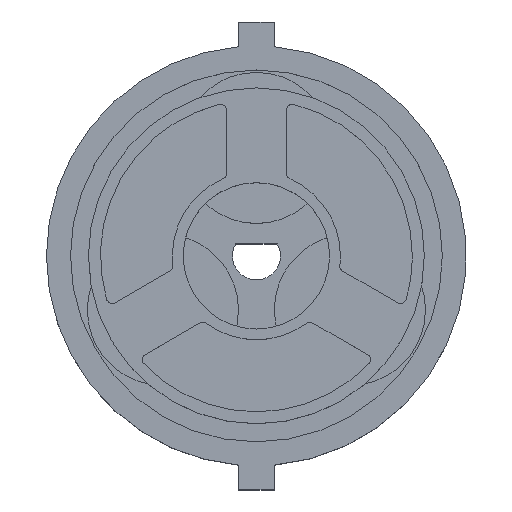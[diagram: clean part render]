
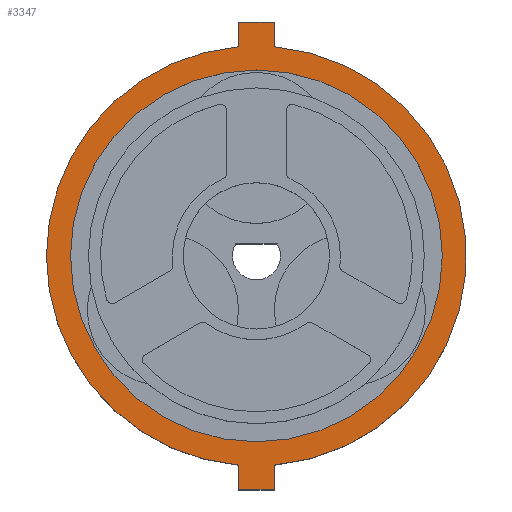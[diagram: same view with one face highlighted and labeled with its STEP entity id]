
A CAD part, top view. The second image highlights one B-rep face of the part: STEP entity #3347.
In plain terms, the highlighted planar face has unit normal (0, 0, 1).
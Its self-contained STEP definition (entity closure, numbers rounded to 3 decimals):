
#214 = DIRECTION ( 'NONE',  ( 0., 0., 1. ) ) ;
#269 = DIRECTION ( 'NONE',  ( 0., 1., 0. ) ) ;
#297 = CARTESIAN_POINT ( 'NONE',  ( 1.5, 19.5, 4.5 ) ) ;
#342 = ORIENTED_EDGE ( 'NONE', *, *, #2219, .T. ) ;
#385 = EDGE_CURVE ( 'NONE', #1893, #1621, #8082, .T. ) ;
#470 = CARTESIAN_POINT ( 'NONE',  ( -15.5, 0., 4.5 ) ) ;
#490 = VERTEX_POINT ( 'NONE', #6605 ) ;
#496 = DIRECTION ( 'NONE',  ( 1., 0., 0. ) ) ;
#533 = CIRCLE ( 'NONE', #3526, 17.5 ) ;
#565 = VECTOR ( 'NONE', #2170, 1000. ) ;
#756 = CARTESIAN_POINT ( 'NONE',  ( 0., 0., 4.5 ) ) ;
#858 = DIRECTION ( 'NONE',  ( 0., 0., 1. ) ) ;
#1018 = DIRECTION ( 'NONE',  ( 1., 0., 0. ) ) ;
#1542 = EDGE_CURVE ( 'NONE', #2685, #4026, #6996, .T. ) ;
#1621 = VERTEX_POINT ( 'NONE', #7222 ) ;
#1637 = ORIENTED_EDGE ( 'NONE', *, *, #5302, .F. ) ;
#1893 = VERTEX_POINT ( 'NONE', #4182 ) ;
#1919 = ORIENTED_EDGE ( 'NONE', *, *, #8768, .F. ) ;
#1954 = LINE ( 'NONE', #3837, #5416 ) ;
#2129 = CARTESIAN_POINT ( 'NONE',  ( -1.5, -19.5, 4.5 ) ) ;
#2132 = VERTEX_POINT ( 'NONE', #470 ) ;
#2149 = CARTESIAN_POINT ( 'NONE',  ( -1.5, 17.436, 4.5 ) ) ;
#2170 = DIRECTION ( 'NONE',  ( 0., -1., 0. ) ) ;
#2219 = EDGE_CURVE ( 'NONE', #1621, #4476, #3905, .T. ) ;
#2284 = VERTEX_POINT ( 'NONE', #5669 ) ;
#2331 = EDGE_CURVE ( 'NONE', #7304, #3283, #4337, .T. ) ;
#2343 = CARTESIAN_POINT ( 'NONE',  ( 0., 0., 4.5 ) ) ;
#2386 = PLANE ( 'NONE',  #3673 ) ;
#2602 = ORIENTED_EDGE ( 'NONE', *, *, #2331, .T. ) ;
#2685 = VERTEX_POINT ( 'NONE', #7410 ) ;
#2723 = ORIENTED_EDGE ( 'NONE', *, *, #7763, .T. ) ;
#2731 = CIRCLE ( 'NONE', #3303, 17.5 ) ;
#2780 = VECTOR ( 'NONE', #269, 1000. ) ;
#2833 = AXIS2_PLACEMENT_3D ( 'NONE', #4923, #858, #4340 ) ;
#3283 = VERTEX_POINT ( 'NONE', #297 ) ;
#3301 = CIRCLE ( 'NONE', #3445, 15.5 ) ;
#3303 = AXIS2_PLACEMENT_3D ( 'NONE', #7894, #5126, #4463 ) ;
#3347 = ADVANCED_FACE ( 'NONE', ( #3865, #5917 ), #2386, .T. ) ;
#3379 = ORIENTED_EDGE ( 'NONE', *, *, #1542, .T. ) ;
#3407 = CIRCLE ( 'NONE', #2833, 15.5 ) ;
#3445 = AXIS2_PLACEMENT_3D ( 'NONE', #6616, #4480, #496 ) ;
#3456 = ORIENTED_EDGE ( 'NONE', *, *, #385, .T. ) ;
#3477 = LINE ( 'NONE', #4228, #8013 ) ;
#3516 = DIRECTION ( 'NONE',  ( -1., 0., 0. ) ) ;
#3526 = AXIS2_PLACEMENT_3D ( 'NONE', #756, #8119, #4735 ) ;
#3564 = CARTESIAN_POINT ( 'NONE',  ( 1.5, -19.5, 4.5 ) ) ;
#3572 = CARTESIAN_POINT ( 'NONE',  ( 1.5, 17.436, 4.5 ) ) ;
#3673 = AXIS2_PLACEMENT_3D ( 'NONE', #2343, #8645, #1018 ) ;
#3806 = AXIS2_PLACEMENT_3D ( 'NONE', #7724, #214, #5460 ) ;
#3837 = CARTESIAN_POINT ( 'NONE',  ( 1.5, -19.5, 4.5 ) ) ;
#3865 = FACE_BOUND ( 'NONE', #5644, .T. ) ;
#3905 = LINE ( 'NONE', #4716, #8412 ) ;
#3936 = ORIENTED_EDGE ( 'NONE', *, *, #4332, .T. ) ;
#4026 = VERTEX_POINT ( 'NONE', #2149 ) ;
#4182 = CARTESIAN_POINT ( 'NONE',  ( -17.5, 0., 4.5 ) ) ;
#4228 = CARTESIAN_POINT ( 'NONE',  ( -1.5, 19.5, 4.5 ) ) ;
#4242 = CARTESIAN_POINT ( 'NONE',  ( 1.5, 17.436, 4.5 ) ) ;
#4332 = EDGE_CURVE ( 'NONE', #4026, #1893, #533, .T. ) ;
#4337 = LINE ( 'NONE', #4242, #2780 ) ;
#4340 = DIRECTION ( 'NONE',  ( 1., 0., 0. ) ) ;
#4431 = ORIENTED_EDGE ( 'NONE', *, *, #7632, .T. ) ;
#4463 = DIRECTION ( 'NONE',  ( 1., 0., 0. ) ) ;
#4476 = VERTEX_POINT ( 'NONE', #2129 ) ;
#4480 = DIRECTION ( 'NONE',  ( 0., 0., 1. ) ) ;
#4665 = DIRECTION ( 'NONE',  ( 0., -1., 0. ) ) ;
#4716 = CARTESIAN_POINT ( 'NONE',  ( -1.5, -19.5, 4.5 ) ) ;
#4735 = DIRECTION ( 'NONE',  ( 1., 0., 0. ) ) ;
#4923 = CARTESIAN_POINT ( 'NONE',  ( 0., 0., 4.5 ) ) ;
#5114 = LINE ( 'NONE', #7789, #7426 ) ;
#5126 = DIRECTION ( 'NONE',  ( 0., 0., 1. ) ) ;
#5180 = DIRECTION ( 'NONE',  ( 0., 1., 0. ) ) ;
#5302 = EDGE_CURVE ( 'NONE', #2132, #490, #3407, .T. ) ;
#5365 = VERTEX_POINT ( 'NONE', #3564 ) ;
#5416 = VECTOR ( 'NONE', #5180, 1000. ) ;
#5460 = DIRECTION ( 'NONE',  ( 1., 0., 0. ) ) ;
#5519 = CARTESIAN_POINT ( 'NONE',  ( -1.5, 17.436, 4.5 ) ) ;
#5553 = EDGE_LOOP ( 'NONE', ( #2723, #2602, #4431, #3379, #3936, #3456, #342, #6145, #8052 ) ) ;
#5644 = EDGE_LOOP ( 'NONE', ( #1919, #1637 ) ) ;
#5669 = CARTESIAN_POINT ( 'NONE',  ( 1.5, -17.436, 4.5 ) ) ;
#5917 = FACE_OUTER_BOUND ( 'NONE', #5553, .T. ) ;
#6145 = ORIENTED_EDGE ( 'NONE', *, *, #7008, .T. ) ;
#6292 = EDGE_CURVE ( 'NONE', #5365, #2284, #1954, .T. ) ;
#6605 = CARTESIAN_POINT ( 'NONE',  ( 15.5, 0., 4.5 ) ) ;
#6616 = CARTESIAN_POINT ( 'NONE',  ( 0., 0., 4.5 ) ) ;
#6996 = LINE ( 'NONE', #5519, #565 ) ;
#7008 = EDGE_CURVE ( 'NONE', #4476, #5365, #5114, .T. ) ;
#7222 = CARTESIAN_POINT ( 'NONE',  ( -1.5, -17.436, 4.5 ) ) ;
#7304 = VERTEX_POINT ( 'NONE', #3572 ) ;
#7410 = CARTESIAN_POINT ( 'NONE',  ( -1.5, 19.5, 4.5 ) ) ;
#7426 = VECTOR ( 'NONE', #8427, 1000. ) ;
#7632 = EDGE_CURVE ( 'NONE', #3283, #2685, #3477, .T. ) ;
#7724 = CARTESIAN_POINT ( 'NONE',  ( 0., 0., 4.5 ) ) ;
#7763 = EDGE_CURVE ( 'NONE', #2284, #7304, #2731, .T. ) ;
#7789 = CARTESIAN_POINT ( 'NONE',  ( -1.5, -19.5, 4.5 ) ) ;
#7894 = CARTESIAN_POINT ( 'NONE',  ( 0., 0., 4.5 ) ) ;
#8013 = VECTOR ( 'NONE', #3516, 1000. ) ;
#8052 = ORIENTED_EDGE ( 'NONE', *, *, #6292, .T. ) ;
#8082 = CIRCLE ( 'NONE', #3806, 17.5 ) ;
#8119 = DIRECTION ( 'NONE',  ( 0., 0., 1. ) ) ;
#8412 = VECTOR ( 'NONE', #4665, 1000. ) ;
#8427 = DIRECTION ( 'NONE',  ( 1., 0., 0. ) ) ;
#8645 = DIRECTION ( 'NONE',  ( 0., 0., 1. ) ) ;
#8768 = EDGE_CURVE ( 'NONE', #490, #2132, #3301, .T. ) ;
